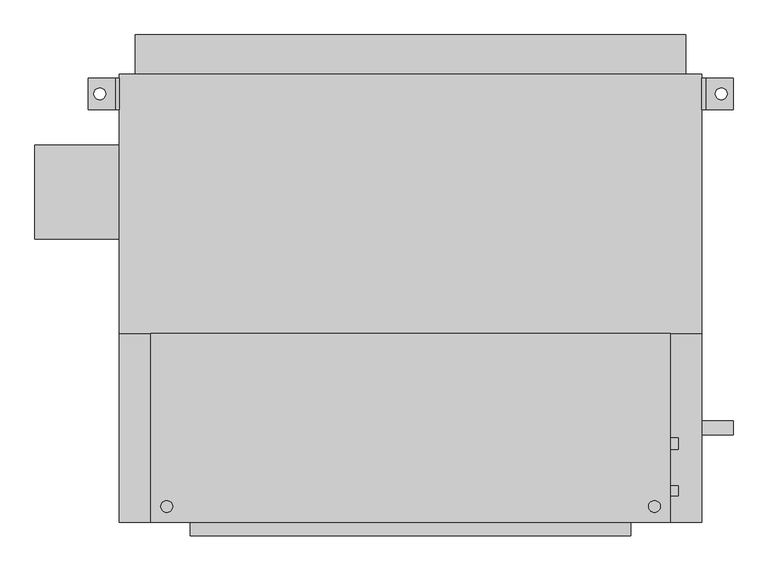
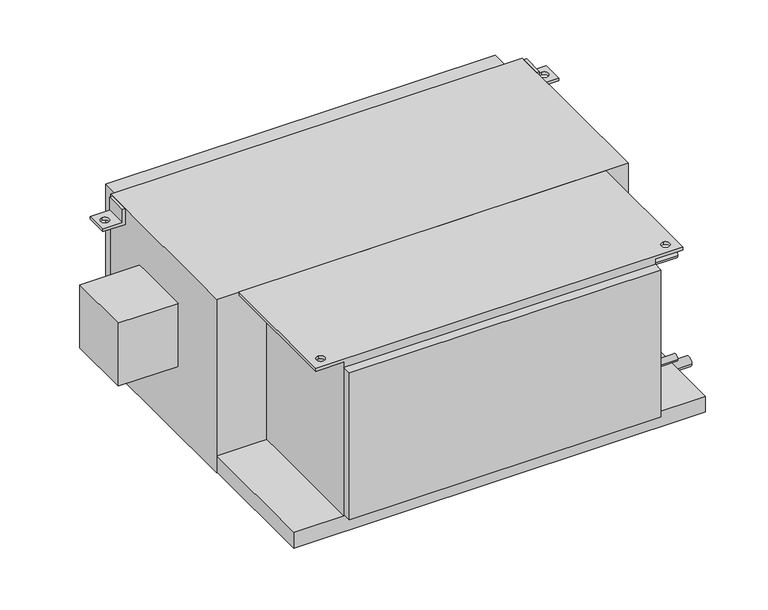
"""IFC4 building model written with IfcOpenShell, lengths in millimetres: proxy geometry, Concealed_High_Capacity_Horizontal_Fan_Coil_Unit_With_Plenum_-_42DCA_-_CARRIER_-_4-Pipe_RH_2022 : Size 12 - 277v/60Hz/1Ph - 6/2 Coil."""

from ifc_helpers import new_model, si_unit, point, frame, frame_2d, origin, place, context, project, spatial, polyline, circle_curve, trimmed, segment, composite_curve, outline, extrude, source, transform, mapped, element, save
from ifc_brep_helpers import plane_surface, revolved_surface, advanced_brep


def mechanical_equipment_56576a30(model_context):
    return source(origin(), model_context, "Body", "SolidModel", [
        advanced_brep(
        [(-266.7, -85.725, 0.0), (-266.7, -390.525, 0.0), (571.5, -390.525, 0.0), (571.5, -85.725, 0.0), (-241.3, -374.65, 0.0), (-241.3, -355.6, 0.0), (546.1, -374.65, 0.0), (546.1, -355.6, 0.0), (508.0, -85.725, -377.825), (508.0, -390.525, -377.825), (-203.2, -390.525, -377.825), (-203.2, -85.725, -377.825), (-203.2, -85.725, -6.35), (-266.7, -85.725, -6.35), (571.5, -85.725, -6.35), (508.0, -85.725, -6.35), (-203.2, -390.525, -6.35), (508.0, -390.525, -6.35), (571.5, -390.525, -6.35), (-266.7, -390.525, -6.35), (-241.3, -355.6, -6.35), (-241.3, -374.65, -6.35), (546.1, -355.6, -6.35), (546.1, -374.65, -6.35)],
        [
            (0, 1),
            (1, 2),
            (2, 3),
            (3, 0),
            (4, 5, circle_curve(frame((-241.3, -365.125, 0.0), z_axis=(0.0, 0.0, -1.0), x_axis=(0.0, 1.0, 0.0)), 9.525)),
            (5, 4, circle_curve(frame((-241.3, -365.125, 0.0), z_axis=(0.0, 0.0, -1.0), x_axis=(0.0, 1.0, 0.0)), 9.525)),
            (6, 7, circle_curve(frame((546.1, -365.125, 0.0), z_axis=(0.0, 0.0, -1.0), x_axis=(0.0, 1.0, 0.0)), 9.525)),
            (7, 6, circle_curve(frame((546.1, -365.125, 0.0), z_axis=(0.0, 0.0, -1.0), x_axis=(0.0, 1.0, 0.0)), 9.525)),
            (8, 9),
            (9, 10),
            (10, 11),
            (11, 8),
            (11, 12),
            (12, 13),
            (13, 0),
            (3, 14),
            (14, 15),
            (15, 8),
            (10, 16),
            (16, 12),
            (9, 17),
            (17, 18),
            (18, 2),
            (1, 19),
            (19, 16),
            (15, 17),
            (19, 13),
            (20, 21, circle_curve(frame((-241.3, -365.125, -6.35), z_axis=(0.0, 0.0, 1.0), x_axis=(0.0, 1.0, 0.0)), 9.525)),
            (21, 20, circle_curve(frame((-241.3, -365.125, -6.35), z_axis=(0.0, 0.0, 1.0), x_axis=(0.0, 1.0, 0.0)), 9.525)),
            (14, 18),
            (22, 23, circle_curve(frame((546.1, -365.125, -6.35), z_axis=(0.0, 0.0, 1.0), x_axis=(0.0, 1.0, 0.0)), 9.525)),
            (23, 22, circle_curve(frame((546.1, -365.125, -6.35), z_axis=(0.0, 0.0, 1.0), x_axis=(0.0, 1.0, 0.0)), 9.525)),
            (4, 21),
            (20, 5),
            (6, 23),
            (22, 7),
        ],
        [
            plane_surface(frame((-203.2, -85.725, 0.0), z_axis=(0.0, 0.0, 1.0), x_axis=(-1.0, 0.0, 0.0))),
            plane_surface(frame((-203.2, -85.725, -377.825), z_axis=(0.0, 0.0, -1.0), x_axis=(1.0, 0.0, 0.0))),
            plane_surface(frame((508.0, -85.725, 0.0), z_axis=(0.0, 1.0, 0.0), x_axis=(0.0, 0.0, -1.0))),
            plane_surface(frame((-203.2, -85.725, 0.0), z_axis=(-1.0, 0.0, 0.0), x_axis=(0.0, 0.0, -1.0))),
            plane_surface(frame((-203.2, -390.525, 0.0), z_axis=(0.0, -1.0, 0.0), x_axis=(0.0, 0.0, -1.0))),
            plane_surface(frame((508.0, -390.525, 0.0), z_axis=(1.0, 0.0, 0.0), x_axis=(0.0, 0.0, -1.0))),
            plane_surface(frame((-266.7, -85.725, -6.35), z_axis=(0.0, 0.0, -1.0), x_axis=(0.0, 1.0, 0.0))),
            plane_surface(frame((-266.7, -85.725, 0.0), z_axis=(-1.0, 0.0, 0.0), x_axis=(0.0, 0.0, -1.0))),
            plane_surface(frame((571.5, -390.525, 0.0), z_axis=(1.0, 0.0, 0.0), x_axis=(0.0, 0.0, -1.0))),
            revolved_surface(polyline([(-241.3, -355.6, -6.35), (-241.3, -355.6, 0.0)]), (-241.3, -365.125, 0.0), (0.0, 0.0, -1.0)),
            revolved_surface(polyline([(546.1, -355.6, -6.35), (546.1, -355.6, 0.0)]), (546.1, -365.125, 0.0), (0.0, 0.0, -1.0)),
        ],
        [
            (0, [[1, 2, 3, 4], [5, 6], [7, 8]]),
            (1, [[9, 10, 11, 12]]),
            (2, [[-12, 13, 14, 15, -4, 16, 17, 18]]),
            (3, [[-11, 19, 20, -13]]),
            (4, [[-10, 21, 22, 23, -2, 24, 25, -19]]),
            (5, [[-9, -18, 26, -21]]),
            (6, [[-14, -20, -25, 27], [28, 29]]),
            (6, [[30, -22, -26, -17], [31, 32]]),
            (7, [[-27, -24, -1, -15]]),
            (8, [[-30, -16, -3, -23]]),
            (9, [[33, -28, 34, -5]]),
            (9, [[-33, -6, -34, -29]]),
            (10, [[35, -31, 36, -7]]),
            (10, [[-35, -8, -36, -32]]),
        ],
    ),
        advanced_brep(
        [(-317.5, 327.025, -38.1), (-368.3, 327.025, -38.1), (-368.3, 327.025, -31.75), (-323.85, 327.025, -31.75), (-323.85, 327.025, 0.0), (-317.5, 327.025, 0.0), (-317.5, 276.225, -38.1), (-317.5, 276.225, 0.0), (-323.85, 276.225, 0.0), (-323.85, 276.225, -31.75), (-368.3, 276.225, -31.75), (-368.3, 276.225, -38.1), (-349.25, 292.1, -38.1), (-349.25, 311.15, -38.1), (-349.25, 311.15, -31.75), (-349.25, 292.1, -31.75)],
        [
            (0, 1),
            (1, 2),
            (2, 3),
            (3, 4),
            (4, 5),
            (5, 0),
            (6, 7),
            (7, 8),
            (8, 9),
            (9, 10),
            (10, 11),
            (11, 6),
            (0, 6),
            (11, 1),
            (12, 13, circle_curve(frame((-349.25, 301.625, -38.1), z_axis=(0.0, 0.0, 1.0), x_axis=(0.0, -1.0, 0.0)), 9.525)),
            (13, 12, circle_curve(frame((-349.25, 301.625, -38.1), z_axis=(0.0, 0.0, 1.0), x_axis=(0.0, -1.0, 0.0)), 9.525)),
            (10, 2),
            (9, 3),
            (14, 15, circle_curve(frame((-349.25, 301.625, -31.75), z_axis=(0.0, 0.0, -1.0), x_axis=(0.0, -1.0, 0.0)), 9.525)),
            (15, 14, circle_curve(frame((-349.25, 301.625, -31.75), z_axis=(0.0, 0.0, -1.0), x_axis=(0.0, -1.0, 0.0)), 9.525)),
            (8, 4),
            (7, 5),
            (14, 13),
            (12, 15),
        ],
        [
            plane_surface(frame((-317.5, 327.025, -38.1), z_axis=(0.0, 1.0, 0.0), x_axis=(-1.0, 0.0, 0.0))),
            plane_surface(frame((-317.5, 276.225, -38.1), z_axis=(0.0, -1.0, 0.0), x_axis=(1.0, 0.0, 0.0))),
            plane_surface(frame((-317.5, 327.025, -38.1), z_axis=(0.0, 0.0, -1.0), x_axis=(0.0, -1.0, 0.0))),
            plane_surface(frame((-368.3, 327.025, -38.1), z_axis=(-1.0, 0.0, 0.0), x_axis=(0.0, -1.0, 0.0))),
            plane_surface(frame((-368.3, 327.025, -31.75), z_axis=(0.0, 0.0, 1.0), x_axis=(0.0, -1.0, 0.0))),
            plane_surface(frame((-323.85, 327.025, -31.75), z_axis=(-1.0, 0.0, 0.0), x_axis=(0.0, -1.0, 0.0))),
            plane_surface(frame((-323.85, 327.025, 0.0), z_axis=(0.0, 0.0, 1.0), x_axis=(0.0, -1.0, 0.0))),
            plane_surface(frame((-317.5, 327.025, 0.0), z_axis=(1.0, 0.0, 0.0), x_axis=(0.0, -1.0, 0.0))),
            revolved_surface(polyline([(-349.25, 292.1, -38.1), (-349.25, 292.1, -31.75)]), (-349.25, 301.625, -31.75), (0.0, 0.0, -1.0)),
        ],
        [
            (0, [[1, 2, 3, 4, 5, 6]]),
            (1, [[7, 8, 9, 10, 11, 12]]),
            (2, [[-1, 13, -12, 14], [15, 16]]),
            (3, [[-2, -14, -11, 17]]),
            (4, [[-3, -17, -10, 18], [19, 20]]),
            (5, [[-4, -18, -9, 21]]),
            (6, [[-5, -21, -8, 22]]),
            (7, [[-6, -22, -7, -13]]),
            (8, [[23, -15, 24, -19]]),
            (8, [[-23, -20, -24, -16]]),
        ],
    ),
        advanced_brep(
        [(622.3, 327.025, -38.1), (622.3, 327.025, 0.0), (628.65, 327.025, 0.0), (628.65, 327.025, -31.75), (673.1, 327.025, -31.75), (673.1, 327.025, -38.1), (622.3, 276.225, -38.1), (673.1, 276.225, -38.1), (673.1, 276.225, -31.75), (628.65, 276.225, -31.75), (628.65, 276.225, 0.0), (622.3, 276.225, 0.0), (654.05, 311.15, -31.75), (654.05, 292.1, -31.75), (654.05, 292.1, -38.1), (654.05, 311.15, -38.1)],
        [
            (0, 1),
            (1, 2),
            (2, 3),
            (3, 4),
            (4, 5),
            (5, 0),
            (6, 7),
            (7, 8),
            (8, 9),
            (9, 10),
            (10, 11),
            (11, 6),
            (0, 6),
            (11, 1),
            (10, 2),
            (9, 3),
            (8, 4),
            (12, 13, circle_curve(frame((654.05, 301.625, -31.75), z_axis=(0.0, 0.0, -1.0), x_axis=(0.0, -1.0, 0.0)), 9.525)),
            (13, 12, circle_curve(frame((654.05, 301.625, -31.75), z_axis=(0.0, 0.0, -1.0), x_axis=(0.0, -1.0, 0.0)), 9.525)),
            (7, 5),
            (14, 15, circle_curve(frame((654.05, 301.625, -38.1), z_axis=(0.0, 0.0, 1.0), x_axis=(0.0, -1.0, 0.0)), 9.525)),
            (15, 14, circle_curve(frame((654.05, 301.625, -38.1), z_axis=(0.0, 0.0, 1.0), x_axis=(0.0, -1.0, 0.0)), 9.525)),
            (12, 15),
            (14, 13),
        ],
        [
            plane_surface(frame((-317.5, 327.025, -38.1), z_axis=(0.0, 1.0, 0.0), x_axis=(-1.0, 0.0, 0.0))),
            plane_surface(frame((-317.5, 276.225, -38.1), z_axis=(0.0, -1.0, 0.0), x_axis=(1.0, 0.0, 0.0))),
            plane_surface(frame((622.3, 327.025, -38.1), z_axis=(-1.0, 0.0, 0.0), x_axis=(0.0, -1.0, 0.0))),
            plane_surface(frame((622.3, 327.025, 0.0), z_axis=(0.0, 0.0, 1.0), x_axis=(0.0, -1.0, 0.0))),
            plane_surface(frame((628.65, 327.025, 0.0), z_axis=(1.0, 0.0, 0.0), x_axis=(0.0, -1.0, 0.0))),
            plane_surface(frame((628.65, 327.025, -31.75), z_axis=(0.0, 0.0, 1.0), x_axis=(0.0, -1.0, 0.0))),
            plane_surface(frame((673.1, 327.025, -31.75), z_axis=(1.0, 0.0, 0.0), x_axis=(0.0, -1.0, 0.0))),
            plane_surface(frame((673.1, 327.025, -38.1), z_axis=(0.0, 0.0, -1.0), x_axis=(0.0, -1.0, 0.0))),
            revolved_surface(polyline([(654.05, 292.1, -38.1), (654.05, 292.1, -31.75)]), (654.05, 301.625, -31.75), (0.0, 0.0, -1.0)),
        ],
        [
            (0, [[1, 2, 3, 4, 5, 6]]),
            (1, [[7, 8, 9, 10, 11, 12]]),
            (2, [[-1, 13, -12, 14]]),
            (3, [[-2, -14, -11, 15]]),
            (4, [[-3, -15, -10, 16]]),
            (5, [[-4, -16, -9, 17], [18, 19]]),
            (6, [[-5, -17, -8, 20]]),
            (7, [[-6, -20, -7, -13], [21, 22]]),
            (8, [[23, -21, 24, -18]]),
            (8, [[-23, -19, -24, -22]]),
        ],
    ),
        extrude(outline(polyline([(-292.1, 396.875), (596.9, 396.875), (596.9, 333.375), (-292.1, 333.375), (-292.1, 396.875)])), frame((0.0, 0.0, -377.825), z_axis=(0.0, 0.0, 1.0), x_axis=(1.0, 0.0, 0.0)), (0.0, 0.0, 1.0), 355.6),
        extrude(outline(composite_curve([segment(trimmed(circle_curve(frame_2d((-263.525, -76.2)), 9.525), [point((-254.0, -76.2))], [point((-273.05, -76.2))], False, "CARTESIAN"), True, "CONTINUOUS"), segment(trimmed(circle_curve(frame_2d((-263.525, -76.2)), 9.525), [point((-273.05, -76.2))], [point((-254.0, -76.2))], False, "CARTESIAN"), True, "CONTINUOUS")], self_intersect=False)), frame((508.0, 0.0, 0.0), z_axis=(1.0, 0.0, 0.0), x_axis=(0.0, 1.0, 0.0)), (0.0, 0.0, 1.0), 76.2),
        extrude(outline(composite_curve([segment(trimmed(circle_curve(frame_2d((-263.525, -301.625)), 9.525), [point((-254.0, -301.625))], [point((-273.05, -301.625))], False, "CARTESIAN"), True, "CONTINUOUS"), segment(trimmed(circle_curve(frame_2d((-263.525, -301.625)), 9.525), [point((-273.05, -301.625))], [point((-254.0, -301.625))], False, "CARTESIAN"), True, "CONTINUOUS")], self_intersect=False)), frame((508.0, 0.0, 0.0), z_axis=(1.0, 0.0, 0.0), x_axis=(0.0, 1.0, 0.0)), (0.0, 0.0, 1.0), 76.2),
        extrude(outline(composite_curve([segment(trimmed(circle_curve(frame_2d((-339.725, -50.8)), 7.9375), [point((-331.7875, -50.8))], [point((-347.6625, -50.8))], False, "CARTESIAN"), True, "CONTINUOUS"), segment(trimmed(circle_curve(frame_2d((-339.725, -50.8)), 7.9375), [point((-347.6625, -50.8))], [point((-331.7875, -50.8))], False, "CARTESIAN"), True, "CONTINUOUS")], self_intersect=False)), frame((508.0, 0.0, 0.0), z_axis=(1.0, 0.0, 0.0), x_axis=(0.0, 1.0, 0.0)), (0.0, 0.0, 1.0), 76.2),
        extrude(outline(composite_curve([segment(trimmed(circle_curve(frame_2d((-339.725, -301.625)), 7.9375), [point((-331.7875, -301.625))], [point((-347.6625, -301.625))], False, "CARTESIAN"), True, "CONTINUOUS"), segment(trimmed(circle_curve(frame_2d((-339.725, -301.625)), 7.9375), [point((-347.6625, -301.625))], [point((-331.7875, -301.625))], False, "CARTESIAN"), True, "CONTINUOUS")], self_intersect=False)), frame((508.0, 0.0, 0.0), z_axis=(1.0, 0.0, 0.0), x_axis=(0.0, 1.0, 0.0)), (0.0, 0.0, 1.0), 76.2),
        extrude(outline(composite_curve([segment(trimmed(circle_curve(frame_2d((-238.125, -403.225)), 11.1125), [point((-227.0125, -403.225))], [point((-249.2375, -403.225))], False, "CARTESIAN"), True, "CONTINUOUS"), segment(trimmed(circle_curve(frame_2d((-238.125, -403.225)), 11.1125), [point((-249.2375, -403.225))], [point((-227.0125, -403.225))], False, "CARTESIAN"), True, "CONTINUOUS")], self_intersect=False)), frame((622.3, 0.0, 0.0), z_axis=(1.0, 0.0, 0.0), x_axis=(0.0, 1.0, 0.0)), (0.0, 0.0, 1.0), 50.8),
        extrude(outline(polyline([(-454.025, 66.675), (-454.025, 219.075), (-317.5, 219.075), (-317.5, 66.675), (-454.025, 66.675)])), frame((0.0, 0.0, -254.0), z_axis=(0.0, 0.0, 1.0), x_axis=(1.0, 0.0, 0.0)), (0.0, 0.0, 1.0), 152.4),
        extrude(outline(polyline([(508.0, -412.75), (-203.2, -412.75), (-203.2, -390.525), (508.0, -390.525), (508.0, -412.75)])), frame((0.0, 0.0, -374.65), z_axis=(0.0, 0.0, 1.0), x_axis=(1.0, 0.0, 0.0)), (0.0, 0.0, 1.0), 355.6),
        extrude(outline(polyline([(622.3, -85.725), (-317.5, -85.725), (-317.5, 333.375), (622.3, 333.375), (622.3, -85.725)])), frame((0.0, 0.0, -419.1), z_axis=(0.0, 0.0, 1.0), x_axis=(1.0, 0.0, 0.0)), (0.0, 0.0, 1.0), 419.1),
        extrude(outline(polyline([(622.3, -85.725), (622.3, -390.525), (-317.5, -390.525), (-317.5, -85.725), (622.3, -85.725)])), frame((0.0, 0.0, -415.925), z_axis=(0.0, 0.0, 1.0), x_axis=(1.0, 0.0, 0.0)), (0.0, 0.0, 1.0), 38.1),
    ])


if __name__ == "__main__":
    model = new_model("IFC4")
    model_context = context("Model", 3, world=origin())
    ifc_project = project(units=[si_unit("LENGTHUNIT", "METRE", prefix="MILLI")], contexts=[model_context])
    site = spatial("IfcSite", under=ifc_project)
    building = spatial("IfcBuilding", under=site)
    placement = place(None, origin())
    mechanical_equipment_shape = mechanical_equipment_56576a30(model_context)
    element("IfcBuildingElementProxy", 1, Name="Concealed_High_Capacity_Horizontal_Fan_Coil_Unit_With_Plenum_-_42DCA_-_CARRIER_-_4-Pipe_RH_2022 : Size 12 - 277v/60Hz/1Ph - 6/2 Coil", ObjectType="Concealed_High_Capacity_Horizontal_Fan_Coil_Unit_With_Plenum_-_42DCA_-_CARRIER_-_4-Pipe_RH_2022 : Size 12 - 277v/60Hz/1Ph - 6/2 Coil", at=placement, inside=building, context=model_context, shape_type="MappedRepresentation", body=[
        mapped(mechanical_equipment_shape, transform((0.0, 0.0, 0.0), x_axis=(1.0, 0.0, 0.0), y_axis=(0.0, 1.0, 0.0), z_axis=(0.0, 0.0, 1.0))),
    ])
    save(model, "model.ifc")
